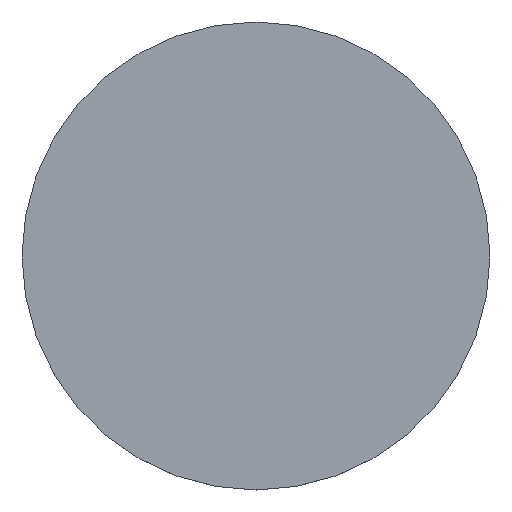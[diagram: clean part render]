
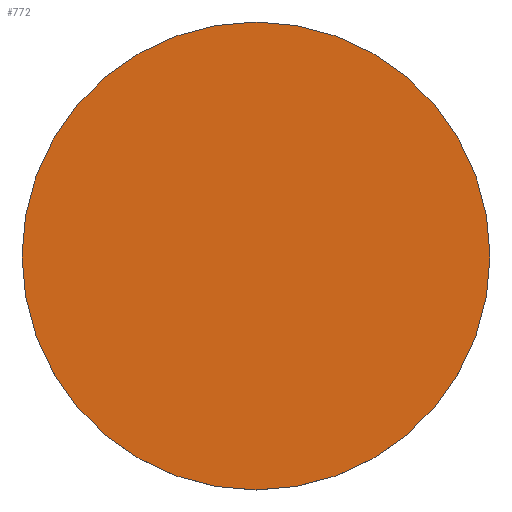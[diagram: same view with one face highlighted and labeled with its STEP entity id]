
A CAD part, top view. The second image highlights one B-rep face of the part: STEP entity #772.
In plain terms, the highlighted planar face has unit normal (0, 0, 1) as drawn and (0, 0, -1) by its records, which use the part's own axes.
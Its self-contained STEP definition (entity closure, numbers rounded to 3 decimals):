
#10 = CIRCLE ( 'NONE', #600, 350. ) ;
#32 = CARTESIAN_POINT ( 'NONE',  ( 0., 0., 0. ) ) ;
#124 = CARTESIAN_POINT ( 'NONE',  ( 0., 0., 0. ) ) ;
#192 = FACE_OUTER_BOUND ( 'NONE', #417, .T. ) ;
#213 = DIRECTION ( 'NONE',  ( 1., 0., 0. ) ) ;
#267 = CARTESIAN_POINT ( 'NONE',  ( 0., 0., 0. ) ) ;
#331 = ORIENTED_EDGE ( 'NONE', *, *, #612, .F. ) ;
#346 = CARTESIAN_POINT ( 'NONE',  ( -350., 0., 0. ) ) ;
#391 = AXIS2_PLACEMENT_3D ( 'NONE', #124, #848, #841 ) ;
#411 = EDGE_CURVE ( 'NONE', #751, #765, #739, .T. ) ;
#417 = EDGE_LOOP ( 'NONE', ( #562, #331 ) ) ;
#510 = PLANE ( 'NONE',  #928 ) ;
#562 = ORIENTED_EDGE ( 'NONE', *, *, #411, .F. ) ;
#586 = DIRECTION ( 'NONE',  ( 1., 0., 0. ) ) ;
#600 = AXIS2_PLACEMENT_3D ( 'NONE', #267, #969, #586 ) ;
#612 = EDGE_CURVE ( 'NONE', #765, #751, #10, .T. ) ;
#739 = CIRCLE ( 'NONE', #391, 350. ) ;
#751 = VERTEX_POINT ( 'NONE', #346 ) ;
#765 = VERTEX_POINT ( 'NONE', #904 ) ;
#772 = ADVANCED_FACE ( 'NONE', ( #192 ), #510, .F. ) ;
#841 = DIRECTION ( 'NONE',  ( 1., 0., 0. ) ) ;
#848 = DIRECTION ( 'NONE',  ( 0., 0., 1. ) ) ;
#904 = CARTESIAN_POINT ( 'NONE',  ( 350., 0., 0. ) ) ;
#919 = DIRECTION ( 'NONE',  ( 0., 0., 1. ) ) ;
#928 = AXIS2_PLACEMENT_3D ( 'NONE', #32, #919, #213 ) ;
#969 = DIRECTION ( 'NONE',  ( 0., 0., 1. ) ) ;
